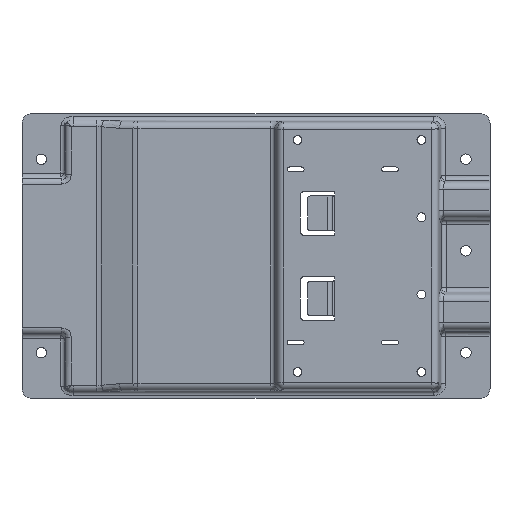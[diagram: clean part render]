
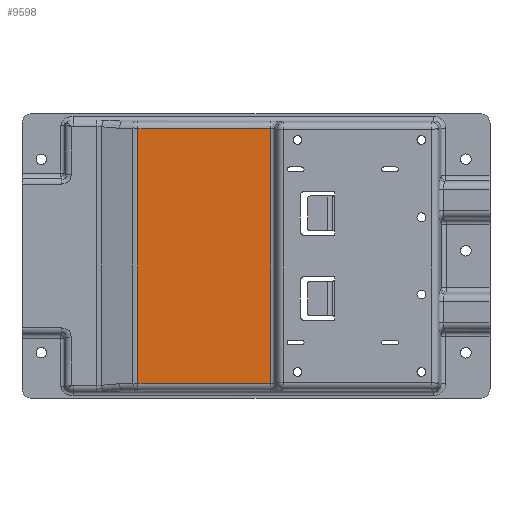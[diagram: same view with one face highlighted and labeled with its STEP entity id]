
A CAD part, top view. The second image highlights one B-rep face of the part: STEP entity #9598.
In plain terms, the highlighted planar face has unit normal (0, 0, 1).
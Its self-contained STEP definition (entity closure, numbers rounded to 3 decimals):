
#4963=CARTESIAN_POINT('Vertex',(-333.046,597.272,20.9)) ;
#5157=CARTESIAN_POINT('Vertex',(-195.887,597.272,20.9)) ;
#5183=CARTESIAN_POINT('Line Origine',(-213.613,597.272,20.9)) ;
#6536=CARTESIAN_POINT('Vertex',(-333.046,860.728,20.9)) ;
#6562=CARTESIAN_POINT('Line Origine',(-213.613,860.728,20.9)) ;
#6566=CARTESIAN_POINT('Vertex',(-195.887,860.728,20.9)) ;
#9305=CARTESIAN_POINT('Line Origine',(-333.046,659.262,20.9)) ;
#9575=CARTESIAN_POINT('Line Origine',(-195.887,659.7,20.9)) ;
#9587=CARTESIAN_POINT('Axis2P3D Location',(-193.,729.,20.9)) ;
#5184=DIRECTION('Vector Direction',(-1.,0.,0.)) ;
#6563=DIRECTION('Vector Direction',(1.,0.,0.)) ;
#9306=DIRECTION('Vector Direction',(0.,-1.,0.)) ;
#9576=DIRECTION('Vector Direction',(0.,-1.,0.)) ;
#9588=DIRECTION('Axis2P3D Direction',(0.,0.,1.)) ;
#9589=DIRECTION('Axis2P3D XDirection',(-1.,0.,0.)) ;
#9590=AXIS2_PLACEMENT_3D('Plane Axis2P3D',#9587,#9588,#9589) ;
#9593=ORIENTED_EDGE('',*,*,#5187,.T.) ;
#9594=ORIENTED_EDGE('',*,*,#9579,.F.) ;
#9595=ORIENTED_EDGE('',*,*,#6568,.F.) ;
#9596=ORIENTED_EDGE('',*,*,#9309,.F.) ;
#5185=VECTOR('Line Direction',#5184,1.) ;
#6564=VECTOR('Line Direction',#6563,1.) ;
#9307=VECTOR('Line Direction',#9306,1.) ;
#9577=VECTOR('Line Direction',#9576,1.) ;
#9598=ADVANCED_FACE('SHT0017894-\X2\526F9A7E5E95652F67B64E0A677F\X0\',(#9597),#9591,.T.) ;
#5187=EDGE_CURVE('',#4964,#5158,#5186,.F.) ;
#6568=EDGE_CURVE('',#6537,#6567,#6565,.T.) ;
#9309=EDGE_CURVE('',#4964,#6537,#9308,.F.) ;
#9579=EDGE_CURVE('',#6567,#5158,#9578,.T.) ;
#9592=EDGE_LOOP('',(#9593,#9594,#9595,#9596)) ;
#9597=FACE_OUTER_BOUND('',#9592,.T.) ;
#5186=LINE('Line',#5183,#5185) ;
#6565=LINE('Line',#6562,#6564) ;
#9308=LINE('Line',#9305,#9307) ;
#9578=LINE('Line',#9575,#9577) ;
#9591=PLANE('Plane',#9590) ;
#4964=VERTEX_POINT('',#4963) ;
#5158=VERTEX_POINT('',#5157) ;
#6537=VERTEX_POINT('',#6536) ;
#6567=VERTEX_POINT('',#6566) ;
